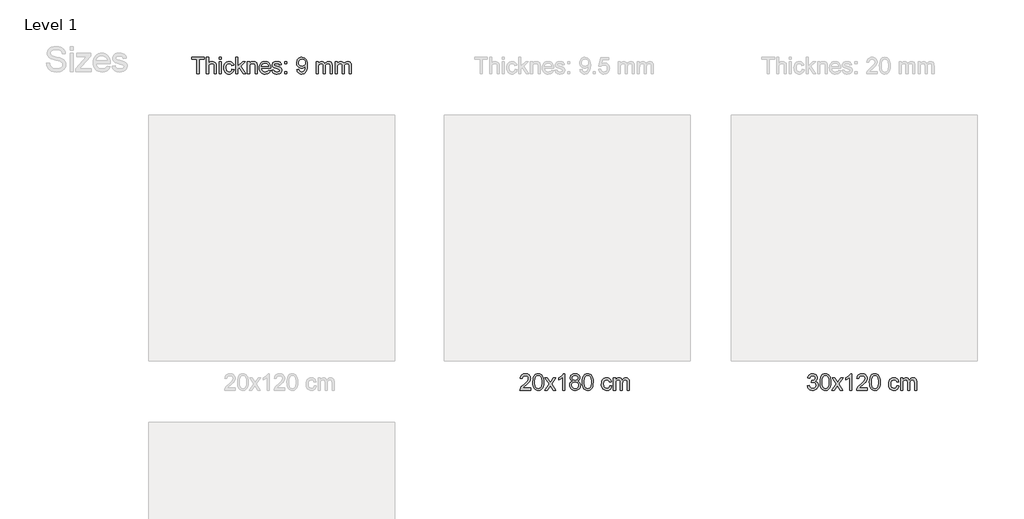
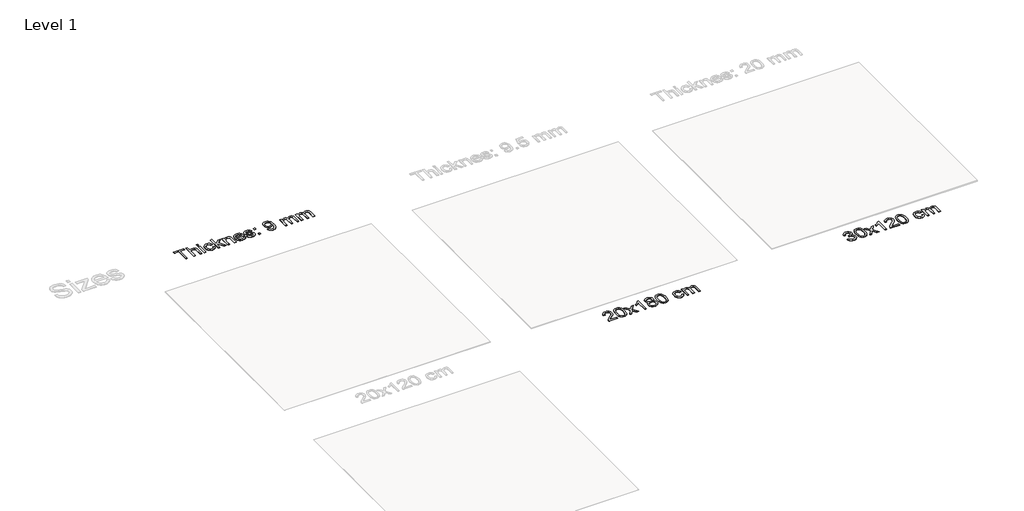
# One storey, part 2 of 5: 3 proxies.
"""IFC4 building model written with IfcOpenShell, lengths in millimetres."""

from ifc_helpers import new_model, si_unit, origin, origin_with_axes, place, context, project, spatial, polyline, outline, extrude, element, save

model = new_model("IFC4")

# Units and contexts
model_context = context("Model", 3, world=origin())
ifc_project = project(units=[si_unit("LENGTHUNIT", "METRE", prefix="MILLI")], contexts=[model_context])

# Site, building, storey
site = spatial("IfcSite", under=ifc_project)
building = spatial("IfcBuilding", under=site)
storey = spatial("IfcBuildingStorey", under=building, Name="Level 1", Elevation=0.0)

# Proxies
placement = place(None, origin())
element("IfcBuildingElementProxy", 1, Name="400mm Arial", ObjectType="400mm Arial", at=placement, inside=storey, context=model_context, shape_type="SweptSolid", body=[
    extrude(outline(polyline([(-22985.008477, 11625.1077423), (-22985.008477, 11976.7048278), (-23116.8573841, 11976.7048278), (-23116.8573841, 12026.9329829), (-22802.9314149, 12026.9329829), (-22802.9314149, 11976.7048278), (-22934.7803219, 11976.7048278), (-22934.7803219, 11625.1077423), (-22985.008477, 11625.1077423)])), origin_with_axes(), (0.0, 0.0, 1.0), 5.0),
    extrude(outline(polyline([(-22752.7032598, 11625.1077423), (-22752.7032598, 12026.9329829), (-22702.4751047, 12026.9329829), (-22702.4751047, 11879.1915736), (-22684.0258227, 11899.8788045), (-22663.307935, 11914.655398), (-22640.3214416, 11923.5213541), (-22615.0663427, 11926.4766728), (-22584.7283408, 11923.2515739), (-22558.6577701, 11913.5762775), (-22538.1299547, 11898.2110728), (-22524.420219, 11877.9162494), (-22516.6946971, 11850.0307942), (-22514.1195232, 11811.893694), (-22514.1195232, 11625.1077423), (-22564.3476783, 11625.1077423), (-22564.3476783, 11806.6942951), (-22568.3453293, 11838.135943), (-22580.3382823, 11859.6693024), (-22599.6643498, 11872.1037139), (-22625.6613441, 11876.2485177), (-22646.8881352, 11873.4526145), (-22666.8150766, 11865.064905), (-22683.3207155, 11851.8947296), (-22694.283599, 11834.7514286), (-22700.4272283, 11811.9672704), (-22702.4751047, 11781.8745232), (-22702.4751047, 11625.1077423), (-22752.7032598, 11625.1077423)])), origin_with_axes(), (0.0, 0.0, 1.0), 5.0),
    extrude(outline(polyline([(-22445.05581, 11625.1077423), (-22445.05581, 11920.1981534), (-22394.8276549, 11920.1981534), (-22394.8276549, 11625.1077423), (-22445.05581, 11625.1077423)])), origin_with_axes(), (0.0, 0.0, 1.0), 5.0),
    extrude(outline(polyline([(-22445.05581, 11976.7048278), (-22445.05581, 12026.9329829), (-22394.8276549, 12026.9329829), (-22394.8276549, 11976.7048278), (-22445.05581, 11976.7048278)])), origin_with_axes(), (0.0, 0.0, 1.0), 5.0),
    extrude(outline(polyline([(-22131.1298407, 11731.8425718), (-22080.9016857, 11725.5640525), (-22086.3647333, 11701.8632549), (-22094.9057269, 11680.8909155), (-22106.5246666, 11662.6470342), (-22121.2215523, 11647.1316111), (-22138.377116, 11634.7493163), (-22157.3720897, 11625.90482), (-22178.2064734, 11620.5981222), (-22200.880267, 11618.8292229), (-22229.0508308, 11621.297098), (-22254.3089955, 11628.7007231), (-22276.654761, 11641.0400984), (-22296.0881274, 11658.3152237), (-22311.8181484, 11680.2011368), (-22323.0538776, 11706.372875), (-22329.7953152, 11736.8304386), (-22332.042461, 11771.5738273), (-22328.2042256, 11816.2714897), (-22316.6895191, 11855.0094638), (-22297.3144007, 11886.2916961), (-22269.8949293, 11908.6221333), (-22237.0921181, 11922.0130379), (-22201.5669801, 11926.4766728), (-22179.2825282, 11924.9438311), (-22159.1256606, 11920.3453062), (-22141.0963771, 11912.6810979), (-22125.1946779, 11901.9512064), (-22111.690343, 11888.4008863), (-22100.8531525, 11872.2753921), (-22092.6831066, 11853.574724), (-22087.180205, 11832.298882), (-22137.4083601, 11826.0203626), (-22146.5195709, 11847.9338668), (-22160.7075531, 11863.642428), (-22179.187492, 11873.0969953), (-22201.1745726, 11876.2485177), (-22218.2412315, 11874.6972819), (-22233.6340273, 11870.0435747), (-22247.3529601, 11862.287396), (-22259.3980297, 11851.4287457), (-22269.2051506, 11837.216238), (-22276.2102369, 11819.3984867), (-22280.4132887, 11797.9754918), (-22281.814306, 11772.9472534), (-22276.3328642, 11725.8706208), (-22269.4810621, 11707.9333078), (-22259.888539, 11693.7299971), (-22248.0825927, 11682.9357263), (-22234.5905205, 11675.2255328), (-22219.4123225, 11670.5994167), (-22202.5479987, 11669.057378), (-22176.5387417, 11672.9078762), (-22155.2138487, 11684.4593709), (-22139.7014912, 11704.0061675), (-22131.1298407, 11731.8425718)])), origin_with_axes(), (0.0, 0.0, 1.0), 5.0),
    extrude(outline(polyline([(-22036.95205, 11625.1077423), (-22036.95205, 12026.9329829), (-21986.7238949, 12026.9329829), (-21986.7238949, 11811.0107772), (-21874.1029534, 11920.1981534), (-21804.6468328, 11920.1981534), (-21918.7393022, 11809.6373511), (-21798.3683134, 11625.1077423), (-21857.0332289, 11625.1077423), (-21954.7426868, 11774.713087), (-21986.7238949, 11743.6147957), (-21986.7238949, 11625.1077423), (-22036.95205, 11625.1077423)])), origin_with_axes(), (0.0, 0.0, 1.0), 5.0),
    extrude(outline(polyline([(-21754.4186777, 11625.1077423), (-21754.4186777, 11920.1981534), (-21704.1905226, 11920.1981534), (-21704.1905226, 11878.9953699), (-21686.7406533, 11899.7684399), (-21665.7836423, 11914.606347), (-21641.3194896, 11923.5090913), (-21613.3481953, 11926.4766728), (-21588.589737, 11924.0854398), (-21565.9159433, 11916.9117409), (-21547.0068088, 11905.8507556), (-21533.5423278, 11891.7976633), (-21524.4065916, 11874.7892524), (-21518.4836914, 11854.862311), (-21515.8349411, 11806.3018877), (-21515.8349411, 11625.1077423), (-21566.0630961, 11625.1077423), (-21566.0630961, 11799.532859), (-21567.5100987, 11825.5053278), (-21571.8511062, 11843.973004), (-21579.858671, 11857.2044931), (-21592.3053451, 11867.4684007), (-21608.259161, 11874.0534884), (-21626.7881508, 11876.2485177), (-21656.2064477, 11871.3188989), (-21681.283737, 11856.5300427), (-21691.3054557, 11844.4573819), (-21698.4638262, 11827.9578744), (-21702.7588485, 11807.0315203), (-21704.1905226, 11781.6783195), (-21704.1905226, 11625.1077423), (-21754.4186777, 11625.1077423)])), origin_with_axes(), (0.0, 0.0, 1.0), 5.0),
    extrude(outline(polyline([(-21240.1686994, 11713.0070137), (-21190.9215629, 11706.7284943), (-21198.4723409, 11687.003888), (-21208.6657378, 11669.6214637), (-21221.5017538, 11654.5812215), (-21236.9803887, 11641.8831613), (-21254.9422271, 11631.7970633), (-21275.2278535, 11624.5927075), (-21322.77047, 11618.8292229), (-21353.9362064, 11621.3154921), (-21381.7051656, 11628.7742995), (-21406.0773478, 11641.2056453), (-21427.0527529, 11658.6095293), (-21443.9201424, 11680.5015737), (-21455.9682777, 11706.3974005), (-21463.1971589, 11736.2970097), (-21465.606786, 11770.2004012), (-21463.1726335, 11805.253424), (-21455.8701759, 11836.1493802), (-21443.6994132, 11862.8882699), (-21426.6603454, 11885.470093), (-21405.7401226, 11903.4104717), (-21381.9258948, 11916.2250278), (-21355.217662, 11923.9137615), (-21325.6154241, 11926.4766728), (-21296.9666137, 11923.9198929), (-21271.0585242, 11916.2495533), (-21247.8911556, 11903.465654), (-21227.4645078, 11885.5681949), (-21210.7902564, 11863.0354227), (-21198.8800768, 11836.3455839), (-21191.733969, 11805.4986786), (-21189.3519331, 11770.4947068), (-21189.6462387, 11756.9566494), (-21415.3786309, 11756.9566494), (-21412.4692975, 11736.913212), (-21406.6843531, 11719.3591095), (-21398.0237978, 11704.2943418), (-21386.4876316, 11691.7189089), (-21372.7135165, 11681.8044891), (-21357.3391148, 11674.7227607), (-21321.7894513, 11669.057378), (-21295.056693, 11671.6816029), (-21272.5423149, 11679.5542776), (-21254.246317, 11693.1659114), (-21240.1686994, 11713.0070137)]), holes=[polyline([(-21415.3786309, 11807.1848045), (-21239.5800882, 11807.1848045), (-21246.3736423, 11833.721359), (-21259.6909706, 11852.70407), (-21273.3884435, 11863.0047659), (-21288.9743774, 11870.3624058), (-21306.4487721, 11874.7769897), (-21325.8116278, 11876.2485177), (-21359.6690341, 11871.5518909), (-21387.664854, 11857.4620105), (-21407.1258115, 11835.4994553), (-21415.3786309, 11807.1848045)])]), origin_with_axes(), (0.0, 0.0, 1.0), 5.0),
    extrude(outline(polyline([(-21157.9593362, 11713.0070137), (-21107.7311811, 11719.2855331), (-21099.8094555, 11697.8012246), (-21084.481039, 11682.0068242), (-21061.6478298, 11672.2947396), (-21031.2117261, 11669.057378), (-21001.1435044, 11672.0249594), (-20980.0025524, 11680.9277037), (-20967.4945645, 11693.828099), (-20963.3252352, 11708.7886335), (-20967.51909, 11721.5909269), (-20980.1006542, 11731.3520625), (-21031.8003373, 11745.6749349), (-21107.4368755, 11770.2494521), (-21126.579002, 11782.5980244), (-21140.4481532, 11798.9442478), (-21148.8726509, 11818.2457898), (-21151.6808168, 11839.4603182), (-21149.4244739, 11858.9212757), (-21142.6554452, 11876.8861798), (-21131.9868673, 11892.6437919), (-21118.031877, 11905.4828736), (-21086.0997198, 11920.3453062), (-21065.2162852, 11924.9438311), (-21042.8858481, 11926.4766728), (-21010.1934014, 11924.0118634), (-20981.7683859, 11916.6174353), (-20958.9106513, 11905.0168897), (-20942.9200472, 11889.9337279), (-20932.3250458, 11870.2520412), (-20925.6541189, 11844.8559208), (-20975.882274, 11838.5774014), (-20982.2221071, 11854.3840644), (-20994.7668831, 11866.2911783), (-21013.6392295, 11873.7591828), (-21038.9617735, 11876.2485177), (-21067.8037219, 11873.8695474), (-21087.0316875, 11866.7326367), (-21097.8474182, 11856.4319409), (-21101.4526617, 11844.5616152), (-21095.4684479, 11829.9444372), (-21076.7309916, 11818.8589264), (-21033.468069, 11808.1658231), (-20959.7445172, 11784.5232735), (-20940.2712969, 11773.2170336), (-20925.5069661, 11757.7414643), (-20916.1995517, 11738.0475148), (-20913.0970802, 11714.0861342), (-20916.7391119, 11689.3154132), (-20927.6652072, 11666.0162202), (-20945.458433, 11646.0157024), (-20969.7018565, 11631.141007), (-20998.9852633, 11621.9071689), (-21031.8984391, 11618.8292229), (-21058.9316344, 11620.3130136), (-21082.5435272, 11624.7643858), (-21102.7341173, 11632.1833393), (-21119.5034049, 11642.5698743), (-21133.2008779, 11655.8749398), (-21144.1760241, 11672.0494849), (-21152.4288435, 11691.0935095), (-21157.9593362, 11713.0070137)])), origin_with_axes(), (0.0, 0.0, 1.0), 5.0),
    extrude(outline(polyline([(-20844.0333669, 11869.9699983), (-20844.0333669, 11920.1981534), (-20793.8052119, 11920.1981534), (-20793.8052119, 11869.9699983), (-20844.0333669, 11869.9699983)])), origin_with_axes(), (0.0, 0.0, 1.0), 5.0),
    extrude(outline(polyline([(-20844.0333669, 11625.1077423), (-20844.0333669, 11675.3358974), (-20793.8052119, 11675.3358974), (-20793.8052119, 11625.1077423), (-20844.0333669, 11625.1077423)])), origin_with_axes(), (0.0, 0.0, 1.0), 5.0),
    extrude(outline(polyline([(-20548.9429559, 11725.5640525), (-20498.7148008, 11731.8425718), (-20490.1308876, 11703.3317172), (-20476.1513718, 11683.9198106), (-20457.1196099, 11672.7729861), (-20433.3789585, 11669.057378), (-20412.0785909, 11671.448611), (-20392.7157353, 11678.6223099), (-20376.6270293, 11689.7936598), (-20365.1491111, 11704.1778458), (-20348.7170486, 11747.8331759), (-20343.2723951, 11776.2336659), (-20341.4575106, 11806.1056839), (-20341.7518162, 11815.9158705), (-20359.1526346, 11794.6768166), (-20381.9245301, 11777.8523467), (-20408.4242965, 11766.8894632), (-20437.0087275, 11763.2351688), (-20460.8689406, 11765.4669862), (-20482.8100359, 11772.1624385), (-20502.8320135, 11783.3215257), (-20520.9348733, 11798.9442478), (-20535.9352617, 11818.2151329), (-20546.6498248, 11840.3187095), (-20553.0785626, 11865.2549774), (-20555.2214753, 11893.0239367), (-20552.9743294, 11921.7187323), (-20546.2328918, 11947.4704719), (-20534.9971626, 11970.2791556), (-20519.2671416, 11990.1447834), (-20500.1526063, 12006.2396207), (-20478.7633339, 12017.735933), (-20455.0993246, 12024.6337204), (-20429.1605783, 12026.9329829), (-20391.6979284, 12021.6845331), (-20357.5952675, 12005.9391837), (-20329.0721501, 11980.4817496), (-20308.348131, 11946.0970458), (-20295.7297786, 11898.5666921), (-20291.5236611, 11833.6723081), (-20295.7175159, 11764.8661123), (-20308.2990801, 11711.6826385), (-20329.1579892, 11671.7183911), (-20342.6500614, 11655.7921664), (-20358.1838786, 11642.5698743), (-20375.4467413, 11632.1833393), (-20394.1259496, 11624.7643858), (-20435.7334032, 11618.8292229), (-20458.2907009, 11620.5797281), (-20478.6774948, 11625.8312436), (-20496.8937849, 11634.5837694), (-20512.9395713, 11646.8373055), (-20526.4101837, 11662.2607581), (-20536.9009519, 11680.5230335), (-20544.411876, 11701.6241316), (-20548.9429559, 11725.5640525)]), holes=[polyline([(-20341.7518162, 11894.201159), (-20347.1719443, 11928.2425063), (-20353.9471043, 11942.320124), (-20363.4323284, 11954.4357044), (-20375.1616327, 11964.1784459), (-20388.6690333, 11971.137547), (-20421.0181234, 11976.7048278), (-20438.6274083, 11975.2057087), (-20454.5689614, 11970.7083513), (-20468.8427828, 11963.2127557), (-20481.4488725, 11952.7189217), (-20491.7495684, 11939.8399862), (-20499.1072083, 11925.1890858), (-20503.5217922, 11908.7662204), (-20504.9933202, 11890.57139), (-20499.4260393, 11859.5344124), (-20492.4669383, 11846.4163536), (-20482.7241967, 11834.8985814), (-20470.602485, 11825.5206562), (-20456.5064732, 11818.8221382), (-20422.3915495, 11813.4633238), (-20390.2999768, 11818.8221382), (-20364.462398, 11834.8985814), (-20354.5265185, 11846.6432141), (-20347.4294617, 11860.4418546), (-20341.7518162, 11894.201159)])]), origin_with_axes(), (0.0, 0.0, 1.0), 5.0),
    extrude(outline(polyline([(-20078.0540021, 11625.1077423), (-20078.0540021, 11920.1981534), (-20027.825847, 11920.1981534), (-20027.825847, 11871.63773), (-20012.7181597, 11893.9436416), (-19993.2939904, 11911.4180364), (-19970.2155265, 11922.7120137), (-19944.1449558, 11926.4766728), (-19916.2104496, 11922.6384373), (-19893.8186989, 11911.1237308), (-19877.0923308, 11892.6928429), (-19866.1539728, 11868.1060629), (-19847.8457122, 11893.6432047), (-19826.9622776, 11911.8840203), (-19803.5036691, 11922.8285096), (-19777.4698865, 11926.4766728), (-19757.3620698, 11924.9591595), (-19739.7129311, 11920.4066198), (-19724.5224704, 11912.8190537), (-19711.7906877, 11902.1964611), (-19701.7260494, 11888.4162147), (-19694.5370221, 11871.3556871), (-19690.2236057, 11851.0148785), (-19688.7858002, 11827.3937887), (-19688.7858002, 11625.1077423), (-19739.0139553, 11625.1077423), (-19739.0139553, 11805.8113783), (-19740.178915, 11830.8641422), (-19743.6737939, 11847.7499258), (-19750.2220934, 11859.3136832), (-19760.5473148, 11868.4003684), (-19773.8278548, 11874.2864804), (-19789.2421104, 11876.2485177), (-19816.4531153, 11871.2207971), (-19838.6363996, 11856.1376353), (-19847.2417726, 11844.5677465), (-19853.3884676, 11829.9689627), (-19858.3058236, 11791.6847097), (-19858.3058236, 11625.1077423), (-19908.5339787, 11625.1077423), (-19908.5339787, 11811.4031847), (-19911.4402464, 11839.8036747), (-19920.1590497, 11860.0617099), (-19935.4997289, 11872.2018157), (-19958.2716244, 11876.2485177), (-19977.6222174, 11873.5507164), (-19995.4522314, 11865.4573125), (-20010.1675112, 11852.1645097), (-20020.1739015, 11833.8685118), (-20025.9128606, 11808.4846542), (-20027.825847, 11773.9282721), (-20027.825847, 11625.1077423), (-20078.0540021, 11625.1077423)])), origin_with_axes(), (0.0, 0.0, 1.0), 5.0),
    extrude(outline(polyline([(-19613.4435676, 11625.1077423), (-19613.4435676, 11920.1981534), (-19563.2154125, 11920.1981534), (-19563.2154125, 11871.63773), (-19548.1077253, 11893.9436416), (-19528.6835559, 11911.4180364), (-19505.6050921, 11922.7120137), (-19479.5345214, 11926.4766728), (-19451.6000152, 11922.6384373), (-19429.2082644, 11911.1237308), (-19412.4818964, 11892.6928429), (-19401.5435384, 11868.1060629), (-19383.2352778, 11893.6432047), (-19362.3518432, 11911.8840203), (-19338.8932346, 11922.8285096), (-19312.8594521, 11926.4766728), (-19292.7516354, 11924.9591595), (-19275.1024966, 11920.4066198), (-19259.9120359, 11912.8190537), (-19247.1802532, 11902.1964611), (-19237.115615, 11888.4162147), (-19229.9265876, 11871.3556871), (-19225.6131712, 11851.0148785), (-19224.1753658, 11827.3937887), (-19224.1753658, 11625.1077423), (-19274.4035209, 11625.1077423), (-19274.4035209, 11805.8113783), (-19275.5684805, 11830.8641422), (-19279.0633595, 11847.7499258), (-19285.611659, 11859.3136832), (-19295.9368803, 11868.4003684), (-19309.2174203, 11874.2864804), (-19324.6316759, 11876.2485177), (-19351.8426808, 11871.2207971), (-19374.0259652, 11856.1376353), (-19382.6313382, 11844.5677465), (-19388.7780332, 11829.9689627), (-19393.6953892, 11791.6847097), (-19393.6953892, 11625.1077423), (-19443.9235442, 11625.1077423), (-19443.9235442, 11811.4031847), (-19446.829812, 11839.8036747), (-19455.5486153, 11860.0617099), (-19470.8892945, 11872.2018157), (-19493.66119, 11876.2485177), (-19513.0117829, 11873.5507164), (-19530.841797, 11865.4573125), (-19545.5570768, 11852.1645097), (-19555.563467, 11833.8685118), (-19561.3024262, 11808.4846542), (-19563.2154125, 11773.9282721), (-19563.2154125, 11625.1077423), (-19613.4435676, 11625.1077423)])), origin_with_axes(), (0.0, 0.0, 1.0), 5.0),
])
element("IfcBuildingElementProxy", 2, Name="400mm Arial", ObjectType="400mm Arial", at=placement, inside=storey, context=model_context, shape_type="SweptSolid", body=[
    extrude(outline(polyline([(-14846.8810506, 3955.3358974), (-14846.8810506, 3905.1077423), (-15110.5788647, 3905.1077423), (-15109.4752187, 3922.7906035), (-15105.1832621, 3939.7377008), (-15092.7856389, 3966.8015529), (-15074.624531, 3993.0560646), (-15048.3700193, 4020.5368497), (-15011.6921844, 4051.2795217), (-14957.5031665, 4099.4230122), (-14925.0191863, 4134.9604129), (-14908.7955903, 4163.8023613), (-14903.387725, 4191.8594948), (-14908.5012847, 4217.0103605), (-14923.8419639, 4237.9183206), (-14947.4231998, 4252.008201), (-14977.2584296, 4256.7048278), (-15008.5897129, 4252.1185656), (-15032.9312382, 4238.359779), (-15048.6397994, 4216.5075885), (-15054.0721902, 4187.6411146), (-15104.3003453, 4193.919634), (-15099.9807976, 4219.8491833), (-15092.1234513, 4242.5045828), (-15080.7283065, 4261.8858326), (-15065.7953631, 4277.9929326), (-15047.6679778, 4290.6542046), (-15026.6895071, 4299.6979703), (-15002.8599508, 4305.1242298), (-14976.1793091, 4306.9329829), (-14949.2595441, 4304.9218947), (-14925.3012292, 4298.8886299), (-14904.3043643, 4288.8331887), (-14886.2689495, 4274.7555711), (-14871.7835959, 4257.6981092), (-14861.4369148, 4238.7031355), (-14855.2289062, 4217.77065), (-14853.1595699, 4194.9006526), (-14855.3913874, 4170.8779584), (-14862.0868397, 4147.272197), (-14873.9694281, 4123.2617654), (-14891.762654, 4098.0250606), (-14920.1263558, 4067.8955252), (-14963.7203722, 4029.206602), (-15021.5023709, 3980.8914333), (-15044.1639018, 3955.3358974), (-14846.8810506, 3955.3358974)])), origin_with_axes(), (0.0, 0.0, 1.0), 5.0),
    extrude(outline(polyline([(-14796.6528955, 4102.783001), (-14792.9618128, 4167.1010365), (-14781.8885647, 4218.3960494), (-14763.5435159, 4257.4528546), (-14751.6854529, 4272.6862348), (-14738.0370309, 4285.0562669), (-14722.5522646, 4294.6273302), (-14705.1851687, 4301.4638039), (-14664.8039884, 4306.9329829), (-14633.8528499, 4303.6956213), (-14606.1390729, 4293.9835367), (-14582.9625072, 4278.1768736), (-14565.6230025, 4256.6557769), (-14552.5264035, 4229.6041875), (-14542.0785548, 4197.2060465), (-14535.2359497, 4156.0645767), (-14532.9550813, 4102.783001), (-14536.6093758, 4038.8328476), (-14547.5722593, 3987.660462), (-14565.8069435, 3948.5668687), (-14577.6374153, 3933.2875031), (-14591.2766403, 3920.8530917), (-14606.7798007, 3911.2176491), (-14624.2020789, 3904.3351901), (-14664.8039884, 3898.8292229), (-14692.4687144, 3901.2204559), (-14716.9941808, 3908.3941548), (-14738.3803874, 3920.3503196), (-14756.6273344, 3937.0889504), (-14774.1385174, 3967.3472445), (-14786.6465052, 4005.0490177), (-14794.1512979, 4050.1942698), (-14796.6528955, 4102.783001)]), holes=[polyline([(-14746.4247404, 4102.8811029), (-14744.9532124, 4059.2165758), (-14740.5386285, 4023.8723131), (-14733.1809886, 3996.8483149), (-14722.8802927, 3978.1445811), (-14710.4213558, 3965.4189297), (-14696.5889928, 3956.3291788), (-14681.3832037, 3950.8753282), (-14664.8039884, 3949.057378), (-14648.2247732, 3950.8814596), (-14633.018984, 3956.3537042), (-14619.186621, 3965.474112), (-14606.7276841, 3978.2426829), (-14596.4269882, 3996.9770736), (-14589.0693483, 4023.9949404), (-14584.6547644, 4059.2962835), (-14583.1832364, 4102.8811029), (-14584.6057135, 4145.3898675), (-14588.8731446, 4180.1117964), (-14595.9855298, 4207.0468898), (-14605.9428692, 4226.1951477), (-14618.1933396, 4239.5431328), (-14632.1851182, 4249.0774078), (-14647.9182048, 4254.7979728), (-14665.3925996, 4256.7048278), (-14681.8859757, 4255.0248334), (-14696.8342475, 4249.9848501), (-14710.2374148, 4241.5848778), (-14722.0954778, 4229.8249167), (-14732.7395302, 4208.9782703), (-14740.3424247, 4180.8720859), (-14744.9041615, 4145.5063634), (-14746.4247404, 4102.8811029)])]), origin_with_axes(), (0.0, 0.0, 1.0), 5.0),
    extrude(outline(polyline([(-14507.8410038, 3905.1077423), (-14400.5175631, 4053.5358646), (-14501.5624844, 4200.1981534), (-14441.3279391, 4200.1981534), (-14392.571312, 4129.4667084), (-14369.7135773, 4096.2101761), (-14349.8970005, 4123.4824946), (-14294.3713447, 4200.1981534), (-14233.9405957, 4200.1981534), (-14340.086814, 4053.4377628), (-14237.8646703, 3905.1077423), (-14298.1973175, 3905.1077423), (-14359.8052889, 3994.3804398), (-14370.9889016, 4010.7634513), (-14447.4102547, 3905.1077423), (-14507.8410038, 3905.1077423)])), origin_with_axes(), (0.0, 0.0, 1.0), 5.0),
    extrude(outline(polyline([(-14018.1164918, 3905.1077423), (-14068.3446469, 3905.1077423), (-14068.3446469, 4218.2488966), (-14089.3139206, 4201.2895366), (-14115.9240516, 4184.3547021), (-14168.800957, 4158.9953699), (-14168.800957, 4206.4766728), (-14129.3517444, 4227.9364558), (-14095.1755071, 4253.4674663), (-14068.2342823, 4280.6171575), (-14050.4901074, 4306.9329829), (-14018.1164918, 4306.9329829), (-14018.1164918, 3905.1077423)])), origin_with_axes(), (0.0, 0.0, 1.0), 5.0),
    extrude(outline(polyline([(-13825.6406319, 4126.4255506), (-13852.5328058, 4139.6693024), (-13871.4051521, 4157.6219438), (-13882.5519766, 4179.9155927), (-13886.2675847, 4206.1823672), (-13884.2442338, 4226.6672629), (-13878.1741809, 4245.4476388), (-13868.057426, 4262.5234947), (-13853.8939692, 4277.8948308), (-13836.3643921, 4290.5990223), (-13816.1492765, 4299.6734449), (-13793.2486223, 4305.1180984), (-13767.6624295, 4306.9329829), (-13741.9536094, 4305.0751788), (-13718.8812769, 4299.5017666), (-13698.4454321, 4290.2127462), (-13680.6460749, 4277.2081177), (-13666.2251007, 4261.5363447), (-13655.9244048, 4244.2458909), (-13649.7439873, 4225.3367564), (-13647.6838481, 4204.808941), (-13651.3504054, 4179.3882952), (-13662.350077, 4157.474791), (-13680.8054904, 4139.6325142), (-13706.839273, 4126.4255506), (-13675.9249226, 4110.4962602), (-13653.4228073, 4087.0376517), (-13639.7008088, 4057.1778964), (-13635.1268094, 4022.0451658), (-13637.395415, 3996.992402), (-13644.2012319, 3974.0243027), (-13655.5442601, 3953.1408681), (-13671.4244996, 3934.3420982), (-13691.0080844, 3918.8052153), (-13713.4611489, 3907.7074417), (-13738.7836929, 3901.0487776), (-13766.9757164, 3898.8292229), (-13795.16774, 3901.0579747), (-13820.490284, 3907.7442299), (-13842.9433484, 3918.8879887), (-13862.5269333, 3934.489251), (-13878.4071728, 3953.4198453), (-13889.750201, 3974.5516003), (-13896.5560179, 3997.8845158), (-13898.8246235, 4023.418592), (-13894.066683, 4059.9124859), (-13879.7928616, 4089.9316567), (-13856.7389233, 4112.4460348), (-13825.6406319, 4126.4255506)]), holes=[polyline([(-13836.0394297, 4204.7108392), (-13831.5880575, 4182.7850723), (-13818.2339411, 4165.2738893), (-13796.3694879, 4153.795971), (-13766.3871053, 4149.9699983), (-13737.1036984, 4153.7714456), (-13715.570339, 4165.1757874), (-13702.3265872, 4182.0983592), (-13697.9120032, 4202.4544963), (-13702.47374, 4223.5831855), (-13716.1589502, 4241.0575803), (-13737.9866152, 4252.7930159), (-13766.9757164, 4256.7048278), (-13796.1487587, 4252.8788551), (-13817.9396355, 4241.4009368), (-13831.5144811, 4224.5764669), (-13836.0394297, 4204.7108392)]), polyline([(-13848.5964684, 4025.1844255), (-13846.4995411, 4005.9687226), (-13840.208759, 3987.3661564), (-13828.5959506, 3971.1425604), (-13810.5329447, 3959.0637683), (-13788.9014834, 3951.5589756), (-13766.583309, 3949.057378), (-13732.3948089, 3954.3180905), (-13718.5011322, 3960.8939812), (-13706.7411711, 3970.1002281), (-13690.7015161, 3994.0002951), (-13685.3549644, 4023.6147957), (-13690.8731944, 4053.7320684), (-13707.4278842, 4078.1594328), (-13719.5066763, 4087.6017374), (-13733.6701331, 4094.3462406), (-13768.2510407, 4099.7418432), (-13801.9612942, 4094.419817), (-13815.698621, 4087.7672843), (-13827.3574146, 4078.4537384), (-13843.286705, 4054.4923578), (-13848.5964684, 4025.1844255)])]), origin_with_axes(), (0.0, 0.0, 1.0), 5.0),
    extrude(outline(polyline([(-13591.1771737, 4102.783001), (-13587.486091, 4167.1010365), (-13576.4128429, 4218.3960494), (-13558.0677941, 4257.4528546), (-13546.2097311, 4272.6862348), (-13532.5613091, 4285.0562669), (-13517.0765428, 4294.6273302), (-13499.7094469, 4301.4638039), (-13459.3282666, 4306.9329829), (-13428.3771281, 4303.6956213), (-13400.6633511, 4293.9835367), (-13377.4867854, 4278.1768736), (-13360.1472807, 4256.6557769), (-13347.0506817, 4229.6041875), (-13336.602833, 4197.2060465), (-13329.7602279, 4156.0645767), (-13327.4793595, 4102.783001), (-13331.133654, 4038.8328476), (-13342.0965375, 3987.660462), (-13360.3312217, 3948.5668687), (-13372.1616935, 3933.2875031), (-13385.8009185, 3920.8530917), (-13401.3040789, 3911.2176491), (-13418.7263571, 3904.3351901), (-13459.3282666, 3898.8292229), (-13486.9929926, 3901.2204559), (-13511.518459, 3908.3941548), (-13532.9046656, 3920.3503196), (-13551.1516126, 3937.0889504), (-13568.6627956, 3967.3472445), (-13581.1707834, 4005.0490177), (-13588.6755761, 4050.1942698), (-13591.1771737, 4102.783001)]), holes=[polyline([(-13540.9490186, 4102.8811029), (-13539.4774906, 4059.2165758), (-13535.0629067, 4023.8723131), (-13527.7052668, 3996.8483149), (-13517.4045709, 3978.1445811), (-13504.945634, 3965.4189297), (-13491.113271, 3956.3291788), (-13475.9074819, 3950.8753282), (-13459.3282666, 3949.057378), (-13442.7490514, 3950.8814596), (-13427.5432622, 3956.3537042), (-13413.7108992, 3965.474112), (-13401.2519623, 3978.2426829), (-13390.9512664, 3996.9770736), (-13383.5936265, 4023.9949404), (-13379.1790426, 4059.2962835), (-13377.7075146, 4102.8811029), (-13379.1299917, 4145.3898675), (-13383.3974228, 4180.1117964), (-13390.509808, 4207.0468898), (-13400.4671474, 4226.1951477), (-13412.7176178, 4239.5431328), (-13426.7093964, 4249.0774078), (-13442.442483, 4254.7979728), (-13459.9168778, 4256.7048278), (-13476.4102539, 4255.0248334), (-13491.3585257, 4249.9848501), (-13504.761693, 4241.5848778), (-13516.619756, 4229.8249167), (-13527.2638084, 4208.9782703), (-13534.866703, 4180.8720859), (-13539.4284397, 4145.5063634), (-13540.9490186, 4102.8811029)])]), origin_with_axes(), (0.0, 0.0, 1.0), 5.0),
    extrude(outline(polyline([(-12925.6541189, 4011.8425718), (-12875.4259639, 4005.5640525), (-12880.8890115, 3981.8632549), (-12889.4300051, 3960.8909155), (-12901.0489448, 3942.6470342), (-12915.7458305, 3927.1316111), (-12932.9013942, 3914.7493163), (-12951.8963679, 3905.90482), (-12972.7307516, 3900.5981222), (-12995.4045452, 3898.8292229), (-13023.575109, 3901.297098), (-13048.8332737, 3908.7007231), (-13071.1790392, 3921.0400984), (-13090.6124056, 3938.3152237), (-13106.3424266, 3960.2011368), (-13117.5781558, 3986.372875), (-13124.3195934, 4016.8304386), (-13126.5667392, 4051.5738273), (-13122.7285038, 4096.2714897), (-13111.2137973, 4135.0094638), (-13091.8386789, 4166.2916961), (-13064.4192075, 4188.6221333), (-13031.6163963, 4202.0130379), (-12996.0912583, 4206.4766728), (-12973.8068064, 4204.9438311), (-12953.6499388, 4200.3453062), (-12935.6206553, 4192.6810979), (-12919.7189561, 4181.9512064), (-12906.2146212, 4168.4008863), (-12895.3774307, 4152.2753921), (-12887.2073848, 4133.574724), (-12881.7044833, 4112.298882), (-12931.9326383, 4106.0203626), (-12941.0438491, 4127.9338668), (-12955.2318314, 4143.642428), (-12973.7117702, 4153.0969953), (-12995.6988508, 4156.2485177), (-13012.7655097, 4154.6972819), (-13028.1583055, 4150.0435747), (-13041.8772383, 4142.287396), (-13053.9223079, 4131.4287457), (-13063.7294288, 4117.216238), (-13070.7345151, 4099.3984867), (-13074.9375669, 4077.9754918), (-13076.3385842, 4052.9472534), (-13070.8571424, 4005.8706208), (-13064.0053403, 3987.9333078), (-13054.4128173, 3973.7299971), (-13042.6068709, 3962.9357263), (-13029.1147987, 3955.2255328), (-13013.9366007, 3950.5994167), (-12997.0722769, 3949.057378), (-12971.0630199, 3952.9078762), (-12949.7381269, 3964.4593709), (-12934.2257694, 3984.0061675), (-12925.6541189, 4011.8425718)])), origin_with_axes(), (0.0, 0.0, 1.0), 5.0),
    extrude(outline(polyline([(-12831.4763282, 3905.1077423), (-12831.4763282, 4200.1981534), (-12781.2481731, 4200.1981534), (-12781.2481731, 4151.63773), (-12766.1404858, 4173.9436416), (-12746.7163165, 4191.4180364), (-12723.6378527, 4202.7120137), (-12697.5672819, 4206.4766728), (-12669.6327758, 4202.6384373), (-12647.241025, 4191.1237308), (-12630.5146569, 4172.6928429), (-12619.576299, 4148.1060629), (-12601.2680383, 4173.6432047), (-12580.3846037, 4191.8840203), (-12556.9259952, 4202.8285096), (-12530.8922127, 4206.4766728), (-12510.7843959, 4204.9591595), (-12493.1352572, 4200.4066198), (-12477.9447965, 4192.8190537), (-12465.2130138, 4182.1964611), (-12455.1483755, 4168.4162147), (-12447.9593482, 4151.3556871), (-12443.6459318, 4131.0148785), (-12442.2081263, 4107.3937887), (-12442.2081263, 3905.1077423), (-12492.4362814, 3905.1077423), (-12492.4362814, 4085.8113783), (-12493.6012411, 4110.8641422), (-12497.09612, 4127.7499258), (-12503.6444195, 4139.3136832), (-12513.9696409, 4148.4003684), (-12527.2501809, 4154.2864804), (-12542.6644365, 4156.2485177), (-12569.8754414, 4151.2207971), (-12592.0587257, 4136.1376353), (-12600.6640987, 4124.5677465), (-12606.8107937, 4109.9689627), (-12611.7281497, 4071.6847097), (-12611.7281497, 3905.1077423), (-12661.9563048, 3905.1077423), (-12661.9563048, 4091.4031847), (-12664.8625726, 4119.8036747), (-12673.5813758, 4140.0617099), (-12688.922055, 4152.2018157), (-12711.6939505, 4156.2485177), (-12731.0445435, 4153.5507164), (-12748.8745575, 4145.4573125), (-12763.5898373, 4132.1645097), (-12773.5962276, 4113.8685118), (-12779.3351867, 4088.4846542), (-12781.2481731, 4053.9282721), (-12781.2481731, 3905.1077423), (-12831.4763282, 3905.1077423)])), origin_with_axes(), (0.0, 0.0, 1.0), 5.0),
])
element("IfcBuildingElementProxy", 3, Name="400mm Arial", ObjectType="400mm Arial", at=placement, inside=storey, context=model_context, shape_type="SweptSolid", body=[
    extrude(outline(polyline([(-8104.3003453, 4011.8425718), (-8054.0721902, 4018.1210912), (-8042.8272639, 3986.556816), (-8026.3584133, 3965.2441858), (-8003.8562979, 3953.1040799), (-7974.5115774, 3949.057378), (-7940.0778227, 3954.6246589), (-7925.8040013, 3961.5837599), (-7913.4922171, 3971.3265014), (-7896.496069, 3996.2443752), (-7890.8306862, 4026.4597498), (-7896.447018, 4055.1422827), (-7913.2960134, 4078.4046875), (-7938.8024984, 4093.8189431), (-7970.3912991, 4098.9570283), (-8005.6098687, 4093.4633238), (-8000.0180624, 4143.6914789), (-7991.9737095, 4143.1028677), (-7961.8809622, 4146.7081113), (-7934.9765257, 4157.5238419), (-7923.9032776, 4165.703085), (-7915.9938147, 4175.8198398), (-7911.248137, 4187.8741065), (-7909.6662444, 4201.8658851), (-7914.2525066, 4223.5586601), (-7928.0112932, 4241.1556822), (-7949.0050924, 4252.8175414), (-7975.2963923, 4256.7048278), (-8001.6367432, 4252.7807532), (-8023.1701026, 4241.0085294), (-8038.8909266, 4221.3881563), (-8047.7936709, 4193.919634), (-8098.0218259, 4200.1981534), (-8092.068269, 4224.1779281), (-8083.2329697, 4245.300486), (-8071.5159282, 4263.565827), (-8056.9171443, 4278.9739513), (-8039.8964707, 4291.2060276), (-8020.9137597, 4299.943225), (-7999.9690115, 4305.1855434), (-7977.0622259, 4306.9329829), (-7945.485688, 4303.4871549), (-7916.484324, 4293.1496708), (-7892.0324341, 4276.8402357), (-7874.1043182, 4255.4785545), (-7863.1046465, 4230.867249), (-7859.4380893, 4204.808941), (-7862.9207055, 4180.5287294), (-7873.3685542, 4158.5048606), (-7890.6344825, 4139.7428788), (-7914.5713377, 4125.2483282), (-7883.1296898, 4112.5441367), (-7859.8304968, 4090.9126753), (-7845.4095226, 4061.5311667), (-7840.6025312, 4025.576833), (-7843.0060269, 4000.0948735), (-7850.216514, 3976.6240022), (-7862.2339925, 3955.1642191), (-7879.0584624, 3935.7155243), (-7899.5556209, 3919.5777674), (-7922.5911652, 3908.0507983), (-7948.1650952, 3901.1346168), (-7976.277411, 3898.8292229), (-8001.6857941, 3900.7973916), (-8024.8378344, 3906.7018976), (-8045.7335317, 3916.542741), (-8064.3728861, 3930.3199217), (-8080.0017395, 3947.2240994), (-8091.8659339, 3966.4459336), (-8099.9654691, 3987.9854245), (-8104.3003453, 4011.8425718)])), origin_with_axes(), (0.0, 0.0, 1.0), 5.0),
    extrude(outline(polyline([(-7796.6528955, 4102.783001), (-7792.9618128, 4167.1010365), (-7781.8885647, 4218.3960494), (-7763.5435159, 4257.4528546), (-7751.6854529, 4272.6862348), (-7738.0370309, 4285.0562669), (-7722.5522646, 4294.6273302), (-7705.1851687, 4301.4638039), (-7664.8039884, 4306.9329829), (-7633.8528499, 4303.6956213), (-7606.1390729, 4293.9835367), (-7582.9625072, 4278.1768736), (-7565.6230025, 4256.6557769), (-7552.5264035, 4229.6041875), (-7542.0785548, 4197.2060465), (-7535.2359497, 4156.0645767), (-7532.9550813, 4102.783001), (-7536.6093758, 4038.8328476), (-7547.5722593, 3987.660462), (-7565.8069435, 3948.5668687), (-7577.6374153, 3933.2875031), (-7591.2766403, 3920.8530917), (-7606.7798007, 3911.2176491), (-7624.2020789, 3904.3351901), (-7664.8039884, 3898.8292229), (-7692.4687144, 3901.2204559), (-7716.9941808, 3908.3941548), (-7738.3803874, 3920.3503196), (-7756.6273344, 3937.0889504), (-7774.1385174, 3967.3472445), (-7786.6465052, 4005.0490177), (-7794.1512979, 4050.1942698), (-7796.6528955, 4102.783001)]), holes=[polyline([(-7746.4247404, 4102.8811029), (-7744.9532124, 4059.2165758), (-7740.5386285, 4023.8723131), (-7733.1809886, 3996.8483149), (-7722.8802927, 3978.1445811), (-7710.4213558, 3965.4189297), (-7696.5889928, 3956.3291788), (-7681.3832037, 3950.8753282), (-7664.8039884, 3949.057378), (-7648.2247732, 3950.8814596), (-7633.018984, 3956.3537042), (-7619.186621, 3965.474112), (-7606.7276841, 3978.2426829), (-7596.4269882, 3996.9770736), (-7589.0693483, 4023.9949404), (-7584.6547644, 4059.2962835), (-7583.1832364, 4102.8811029), (-7584.6057135, 4145.3898675), (-7588.8731446, 4180.1117964), (-7595.9855298, 4207.0468898), (-7605.9428692, 4226.1951477), (-7618.1933396, 4239.5431328), (-7632.1851182, 4249.0774078), (-7647.9182048, 4254.7979728), (-7665.3925996, 4256.7048278), (-7681.8859757, 4255.0248334), (-7696.8342475, 4249.9848501), (-7710.2374148, 4241.5848778), (-7722.0954778, 4229.8249167), (-7732.7395302, 4208.9782703), (-7740.3424247, 4180.8720859), (-7744.9041615, 4145.5063634), (-7746.4247404, 4102.8811029)])]), origin_with_axes(), (0.0, 0.0, 1.0), 5.0),
    extrude(outline(polyline([(-7507.8410038, 3905.1077423), (-7400.5175631, 4053.5358646), (-7501.5624844, 4200.1981534), (-7441.3279391, 4200.1981534), (-7392.571312, 4129.4667084), (-7369.7135773, 4096.2101761), (-7349.8970005, 4123.4824946), (-7294.3713447, 4200.1981534), (-7233.9405957, 4200.1981534), (-7340.086814, 4053.4377628), (-7237.8646703, 3905.1077423), (-7298.1973175, 3905.1077423), (-7359.8052889, 3994.3804398), (-7370.9889016, 4010.7634513), (-7447.4102547, 3905.1077423), (-7507.8410038, 3905.1077423)])), origin_with_axes(), (0.0, 0.0, 1.0), 5.0),
    extrude(outline(polyline([(-7018.1164918, 3905.1077423), (-7068.3446469, 3905.1077423), (-7068.3446469, 4218.2488966), (-7089.3139206, 4201.2895366), (-7115.9240516, 4184.3547021), (-7168.800957, 4158.9953699), (-7168.800957, 4206.4766728), (-7129.3517444, 4227.9364558), (-7095.1755071, 4253.4674663), (-7068.2342823, 4280.6171575), (-7050.4901074, 4306.9329829), (-7018.1164918, 4306.9329829), (-7018.1164918, 3905.1077423)])), origin_with_axes(), (0.0, 0.0, 1.0), 5.0),
    extrude(outline(polyline([(-6641.4053288, 3955.3358974), (-6641.4053288, 3905.1077423), (-6905.1031429, 3905.1077423), (-6903.9994969, 3922.7906035), (-6899.7075403, 3939.7377008), (-6887.3099171, 3966.8015529), (-6869.1488092, 3993.0560646), (-6842.8942975, 4020.5368497), (-6806.2164626, 4051.2795217), (-6752.0274447, 4099.4230122), (-6719.5434645, 4134.9604129), (-6703.3198685, 4163.8023613), (-6697.9120032, 4191.8594948), (-6703.0255629, 4217.0103605), (-6718.3662421, 4237.9183206), (-6741.947478, 4252.008201), (-6771.7827078, 4256.7048278), (-6803.1139911, 4252.1185656), (-6827.4555165, 4238.359779), (-6843.1640776, 4216.5075885), (-6848.5964684, 4187.6411146), (-6898.8246235, 4193.919634), (-6894.5050758, 4219.8491833), (-6886.6477295, 4242.5045828), (-6875.2525847, 4261.8858326), (-6860.3196414, 4277.9929326), (-6842.192256, 4290.6542046), (-6821.2137853, 4299.6979703), (-6797.384229, 4305.1242298), (-6770.7035873, 4306.9329829), (-6743.7838223, 4304.9218947), (-6719.8255074, 4298.8886299), (-6698.8286425, 4288.8331887), (-6680.7932277, 4274.7555711), (-6666.3078741, 4257.6981092), (-6655.961193, 4238.7031355), (-6649.7531844, 4217.77065), (-6647.6838481, 4194.9006526), (-6649.9156656, 4170.8779584), (-6656.6111179, 4147.272197), (-6668.4937063, 4123.2617654), (-6686.2869322, 4098.0250606), (-6714.650634, 4067.8955252), (-6758.2446504, 4029.206602), (-6816.0266491, 3980.8914333), (-6838.68818, 3955.3358974), (-6641.4053288, 3955.3358974)])), origin_with_axes(), (0.0, 0.0, 1.0), 5.0),
    extrude(outline(polyline([(-6591.1771737, 4102.783001), (-6587.486091, 4167.1010365), (-6576.4128429, 4218.3960494), (-6558.0677941, 4257.4528546), (-6546.2097311, 4272.6862348), (-6532.5613091, 4285.0562669), (-6517.0765428, 4294.6273302), (-6499.7094469, 4301.4638039), (-6459.3282666, 4306.9329829), (-6428.3771281, 4303.6956213), (-6400.6633511, 4293.9835367), (-6377.4867854, 4278.1768736), (-6360.1472807, 4256.6557769), (-6347.0506817, 4229.6041875), (-6336.602833, 4197.2060465), (-6329.7602279, 4156.0645767), (-6327.4793595, 4102.783001), (-6331.133654, 4038.8328476), (-6342.0965375, 3987.660462), (-6360.3312217, 3948.5668687), (-6372.1616935, 3933.2875031), (-6385.8009185, 3920.8530917), (-6401.3040789, 3911.2176491), (-6418.7263571, 3904.3351901), (-6459.3282666, 3898.8292229), (-6486.9929926, 3901.2204559), (-6511.518459, 3908.3941548), (-6532.9046656, 3920.3503196), (-6551.1516126, 3937.0889504), (-6568.6627956, 3967.3472445), (-6581.1707834, 4005.0490177), (-6588.6755761, 4050.1942698), (-6591.1771737, 4102.783001)]), holes=[polyline([(-6540.9490186, 4102.8811029), (-6539.4774906, 4059.2165758), (-6535.0629067, 4023.8723131), (-6527.7052668, 3996.8483149), (-6517.4045709, 3978.1445811), (-6504.945634, 3965.4189297), (-6491.113271, 3956.3291788), (-6475.9074819, 3950.8753282), (-6459.3282666, 3949.057378), (-6442.7490514, 3950.8814596), (-6427.5432622, 3956.3537042), (-6413.7108992, 3965.474112), (-6401.2519623, 3978.2426829), (-6390.9512664, 3996.9770736), (-6383.5936265, 4023.9949404), (-6379.1790426, 4059.2962835), (-6377.7075146, 4102.8811029), (-6379.1299917, 4145.3898675), (-6383.3974228, 4180.1117964), (-6390.509808, 4207.0468898), (-6400.4671474, 4226.1951477), (-6412.7176178, 4239.5431328), (-6426.7093964, 4249.0774078), (-6442.442483, 4254.7979728), (-6459.9168778, 4256.7048278), (-6476.4102539, 4255.0248334), (-6491.3585257, 4249.9848501), (-6504.761693, 4241.5848778), (-6516.619756, 4229.8249167), (-6527.2638084, 4208.9782703), (-6534.866703, 4180.8720859), (-6539.4284397, 4145.5063634), (-6540.9490186, 4102.8811029)])]), origin_with_axes(), (0.0, 0.0, 1.0), 5.0),
    extrude(outline(polyline([(-5925.6541189, 4011.8425718), (-5875.4259639, 4005.5640525), (-5880.8890115, 3981.8632549), (-5889.4300051, 3960.8909155), (-5901.0489448, 3942.6470342), (-5915.7458305, 3927.1316111), (-5932.9013942, 3914.7493163), (-5951.8963679, 3905.90482), (-5972.7307516, 3900.5981222), (-5995.4045452, 3898.8292229), (-6023.575109, 3901.297098), (-6048.8332737, 3908.7007231), (-6071.1790392, 3921.0400984), (-6090.6124056, 3938.3152237), (-6106.3424266, 3960.2011368), (-6117.5781558, 3986.372875), (-6124.3195934, 4016.8304386), (-6126.5667392, 4051.5738273), (-6122.7285038, 4096.2714897), (-6111.2137973, 4135.0094638), (-6091.8386789, 4166.2916961), (-6064.4192075, 4188.6221333), (-6031.6163963, 4202.0130379), (-5996.0912583, 4206.4766728), (-5973.8068064, 4204.9438311), (-5953.6499388, 4200.3453062), (-5935.6206553, 4192.6810979), (-5919.7189561, 4181.9512064), (-5906.2146212, 4168.4008863), (-5895.3774307, 4152.2753921), (-5887.2073848, 4133.574724), (-5881.7044833, 4112.298882), (-5931.9326383, 4106.0203626), (-5941.0438491, 4127.9338668), (-5955.2318314, 4143.642428), (-5973.7117702, 4153.0969953), (-5995.6988508, 4156.2485177), (-6012.7655097, 4154.6972819), (-6028.1583055, 4150.0435747), (-6041.8772383, 4142.287396), (-6053.9223079, 4131.4287457), (-6063.7294288, 4117.216238), (-6070.7345151, 4099.3984867), (-6074.9375669, 4077.9754918), (-6076.3385842, 4052.9472534), (-6070.8571424, 4005.8706208), (-6064.0053403, 3987.9333078), (-6054.4128173, 3973.7299971), (-6042.6068709, 3962.9357263), (-6029.1147987, 3955.2255328), (-6013.9366007, 3950.5994167), (-5997.0722769, 3949.057378), (-5971.0630199, 3952.9078762), (-5949.7381269, 3964.4593709), (-5934.2257694, 3984.0061675), (-5925.6541189, 4011.8425718)])), origin_with_axes(), (0.0, 0.0, 1.0), 5.0),
    extrude(outline(polyline([(-5831.4763282, 3905.1077423), (-5831.4763282, 4200.1981534), (-5781.2481731, 4200.1981534), (-5781.2481731, 4151.63773), (-5766.1404858, 4173.9436416), (-5746.7163165, 4191.4180364), (-5723.6378527, 4202.7120137), (-5697.5672819, 4206.4766728), (-5669.6327758, 4202.6384373), (-5647.241025, 4191.1237308), (-5630.5146569, 4172.6928429), (-5619.576299, 4148.1060629), (-5601.2680383, 4173.6432047), (-5580.3846037, 4191.8840203), (-5556.9259952, 4202.8285096), (-5530.8922127, 4206.4766728), (-5510.7843959, 4204.9591595), (-5493.1352572, 4200.4066198), (-5477.9447965, 4192.8190537), (-5465.2130138, 4182.1964611), (-5455.1483755, 4168.4162147), (-5447.9593482, 4151.3556871), (-5443.6459318, 4131.0148785), (-5442.2081263, 4107.3937887), (-5442.2081263, 3905.1077423), (-5492.4362814, 3905.1077423), (-5492.4362814, 4085.8113783), (-5493.6012411, 4110.8641422), (-5497.09612, 4127.7499258), (-5503.6444195, 4139.3136832), (-5513.9696409, 4148.4003684), (-5527.2501809, 4154.2864804), (-5542.6644365, 4156.2485177), (-5569.8754414, 4151.2207971), (-5592.0587257, 4136.1376353), (-5600.6640987, 4124.5677465), (-5606.8107937, 4109.9689627), (-5611.7281497, 4071.6847097), (-5611.7281497, 3905.1077423), (-5661.9563048, 3905.1077423), (-5661.9563048, 4091.4031847), (-5664.8625726, 4119.8036747), (-5673.5813758, 4140.0617099), (-5688.922055, 4152.2018157), (-5711.6939505, 4156.2485177), (-5731.0445435, 4153.5507164), (-5748.8745575, 4145.4573125), (-5763.5898373, 4132.1645097), (-5773.5962276, 4113.8685118), (-5779.3351867, 4088.4846542), (-5781.2481731, 4053.9282721), (-5781.2481731, 3905.1077423), (-5831.4763282, 3905.1077423)])), origin_with_axes(), (0.0, 0.0, 1.0), 5.0),
])

save(model, "model.ifc")
